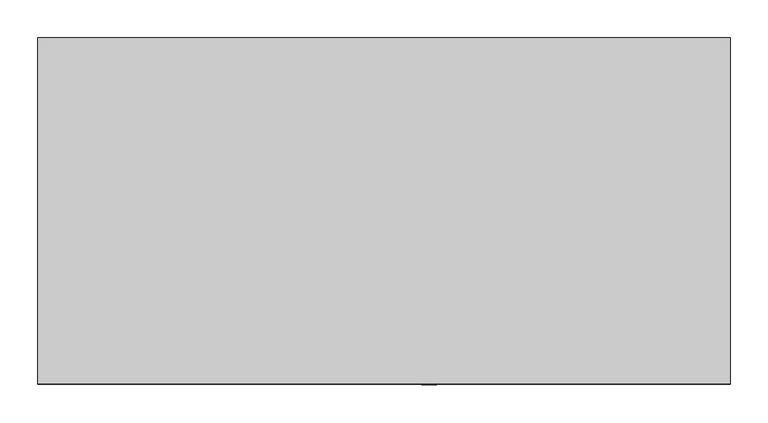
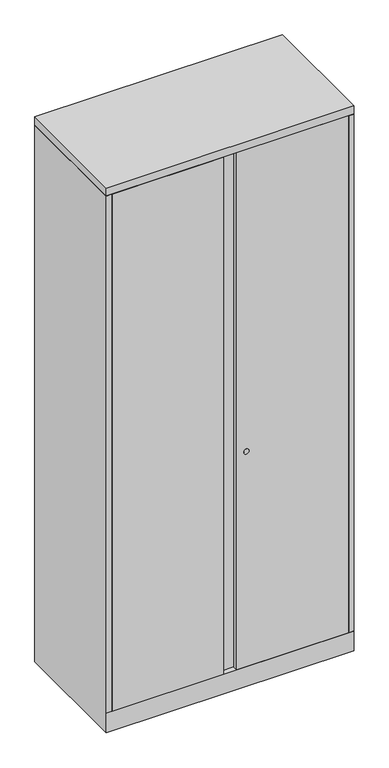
"""IFC4 building model written with IfcOpenShell, lengths in millimetres: furniture geometry, Steelcase - Universal Storage - Cabinet - Storage - 66H-84H - Flush Steel : 83 1/2H x 18D x 36W."""

from ifc_helpers import new_model, si_unit, point, frame, frame_2d, origin, place, context, project, spatial, polyline, circle_curve, trimmed, segment, composite_curve, outline, extrude, faceted_brep, source, transform, mapped, element, save


def furniture_46faf250(model_context):
    return source(origin(), model_context, "Body", "SolidModel", [
        extrude(outline(polyline([(914.4, 0.0), (914.4, -457.2), (0.0, -457.2), (0.0, 0.0), (914.4, 0.0)])), frame((0.0, 0.0, 2095.5), z_axis=(0.0, 0.0, 1.0), x_axis=(1.0, 0.0, 0.0)), (0.0, 0.0, 1.0), 30.226),
        extrude(outline(composite_curve([segment(trimmed(circle_curve(frame_2d((917.575, 517.0109835)), 9.7167829), [point((917.575, 526.7277664))], [point((917.575, 507.2942006))], False, "CARTESIAN"), True, "CONTINUOUS"), segment(trimmed(circle_curve(frame_2d((917.575, 517.0109835)), 9.7167829), [point((917.575, 507.2942006))], [point((917.575, 526.7277664))], False, "CARTESIAN"), True, "CONTINUOUS")], self_intersect=False)), frame((0.0, -457.8695275, 0.0), z_axis=(0.0, 1.0, 0.0), x_axis=(0.0, 0.0, 1.0)), (0.0, 0.0, 1.0), 0.6695275),
        extrude(outline(polyline([(20.8280006, -431.673866), (893.572, -431.673866), (893.572, -457.2), (481.33, -457.2), (481.33, -438.0238781), (433.07, -438.0238781), (433.07, -457.2), (20.8280006, -457.2), (20.8280006, -431.673866)])), frame((0.0, 0.0, 77.724), z_axis=(0.0, 0.0, 1.0), x_axis=(1.0, 0.0, 0.0)), (0.0, 0.0, 1.0), 2016.252),
        faceted_brep([(914.4, 0.0, 0.0), (914.4, -457.2, 0.0), (0.0, -457.2, 0.0), (0.0, 0.0, 0.0), (0.0, 0.0, 2093.976), (914.4, 0.0, 2093.976), (0.0, -457.2, 76.2), (0.0, -457.2, 77.724), (0.0, -457.2, 2093.976), (914.4, -457.2, 76.2), (914.4, -457.2, 2093.976), (914.4, -457.2, 77.724), (889.0000242, -25.4000008, 2093.976), (889.0000242, -430.1498674, 2093.976), (893.572, -430.1498674, 2093.976), (893.572, -431.6738781, 2093.976), (895.096, -431.6738781, 2093.976), (895.096, -457.2, 2093.976), (19.304, -457.2, 2093.976), (19.304, -431.673866, 2093.976), (20.8280006, -431.673866, 2093.976), (20.8280006, -430.1498674, 2093.976), (25.4000008, -430.1498674, 2093.976), (25.4000008, -25.4000008, 2093.976), (19.304, -457.2, 77.724), (19.304, -437.896, 77.724), (895.096, -457.2, 77.724), (895.096, -437.7698418, 77.724), (889.0000242, -25.4000008, 77.724), (889.0000242, -430.1498674, 77.724), (893.572, -430.1498674, 77.724), (893.572, -431.6738781, 77.724), (895.096, -431.6738781, 77.724), (19.304, -431.673866, 77.724), (20.8280006, -431.673866, 77.724), (20.8280006, -430.1498674, 77.724), (25.4000008, -430.1498674, 77.724), (25.4000008, -25.4000008, 77.724), (25.526134, -431.673866, 77.724), (889.0000242, -431.673866, 77.724)], [[[0, 1, 2, 3]], [[0, 3, 4, 5]], [[4, 3, 2, 6, 7, 8]], [[2, 1, 9, 6]], [[1, 0, 5, 10, 11, 9]], [[12, 13, 14, 15, 16, 17, 10, 5, 4, 8, 18, 19, 20, 21, 22, 23]], [[24, 7, 25]], [[11, 26, 27]], [[13, 12, 28, 29]], [[14, 13, 29, 30]], [[15, 14, 30, 31]], [[16, 15, 31, 32]], [[17, 16, 32, 27, 26]], [[10, 17, 26, 11]], [[18, 8, 7, 24]], [[19, 18, 24, 25, 33]], [[20, 19, 33, 34]], [[21, 20, 34, 35]], [[22, 21, 35, 36]], [[23, 22, 36, 37]], [[12, 23, 37, 28]], [[38, 39, 27, 32, 31, 30, 29, 28, 37, 36, 35, 34, 33, 25]], [[7, 6, 38, 25]], [[39, 38, 6, 9]], [[39, 9, 11, 27]]]),
    ])


if __name__ == "__main__":
    model = new_model("IFC4")
    model_context = context("Model", 3, world=origin())
    ifc_project = project(units=[si_unit("LENGTHUNIT", "METRE", prefix="MILLI")], contexts=[model_context])
    site = spatial("IfcSite", under=ifc_project)
    building = spatial("IfcBuilding", under=site)
    placement = place(None, origin())
    furniture_shape = furniture_46faf250(model_context)
    element("IfcFurniture", 1, ObjectType="Steelcase - Universal Storage - Cabinet - Storage - 66H-84H - Flush Steel : 83 1/2H x 18D x 36W", at=placement, inside=building, context=model_context, shape_type="MappedRepresentation", body=[
        mapped(furniture_shape, transform((0.0, 0.0, 0.0), x_axis=(1.0, 0.0, 0.0), y_axis=(0.0, 1.0, 0.0), z_axis=(0.0, 0.0, 1.0))),
    ])
    save(model, "model.ifc")
